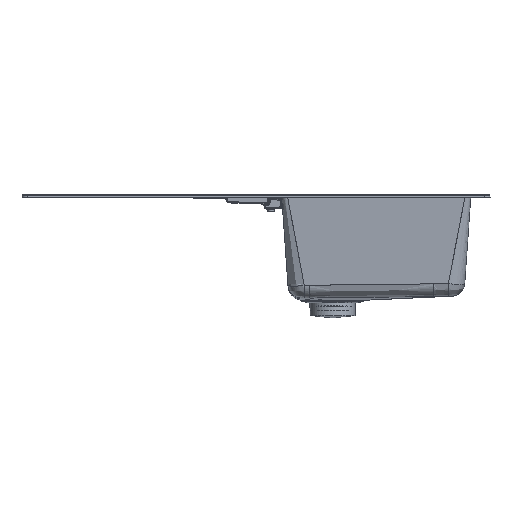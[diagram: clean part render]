
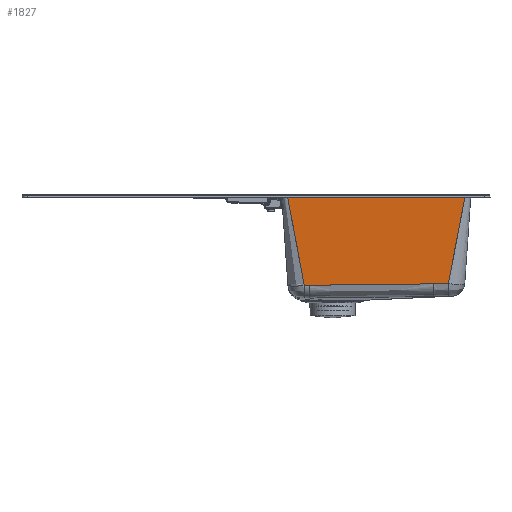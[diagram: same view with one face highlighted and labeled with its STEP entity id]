
A CAD part, front view. The second image highlights one B-rep face of the part: STEP entity #1827.
In plain terms, the highlighted planar face has unit normal (0, -0.998, -0.07).
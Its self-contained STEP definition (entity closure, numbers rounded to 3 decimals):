
#1827=ADVANCED_FACE('',(#2525),#12263,.T.);
#2525=FACE_OUTER_BOUND('',#3222,.T.);
#3222=EDGE_LOOP('',(#5153));
#5153=ORIENTED_EDGE('',*,*,#7235,.T.);
#7235=EDGE_CURVE('',#11186,#11186,#9575,.T.);
#9575=B_SPLINE_CURVE_WITH_KNOTS('',3,(#60644,#60645,#60646,#60647,#60648,
#60649,#60650,#60651,#60652,#60653,#60654,#60655,#60656,#60657,#60658,#60659,
#60660,#60661,#60662,#60663,#60664,#60665,#60666,#60667,#60668,#60669,#60670,
#60671,#60672,#60673,#60674,#60675,#60676,#60677,#60678,#60679,#60680,#60681,
#60682,#60683,#60684,#60685,#60686,#60687,#60688,#60689,#60690,#60691,#60692,
#60693,#60694,#60695),.UNSPECIFIED.,.T.,.F.,(4,1,1,1,1,1,1,1,1,1,1,1,3,
3,3,3,1,1,1,1,1,1,1,1,1,1,1,1,1,1,1,1,1,1,1,3,1,1,1,4),(0.,0.083,
0.167,0.25,0.333,0.417,0.5,0.583,
0.667,0.75,0.833,0.917,1.,2.,3.,4.,4.05,4.1,
4.15,4.2,4.25,4.3,4.35,4.4,4.45,4.5,4.55,4.6,4.65,4.7,4.75,4.8,4.85,4.9,
4.95,5.,5.25,5.5,5.75,6.),.UNSPECIFIED.);
#11186=VERTEX_POINT('',#60643);
#12263=PLANE('',#12757);
#12757=AXIS2_PLACEMENT_3D('',#60642,#12810,$);
#12810=DIRECTION('',(0.,-0.998,-0.07));
#60642=CARTESIAN_POINT('',(71.226,-279.101,1.45));
#60643=CARTESIAN_POINT('',(345.854,-267.478,-164.772));
#60644=CARTESIAN_POINT('',(345.854,-267.478,-164.772));
#60645=CARTESIAN_POINT('',(346.395,-267.478,-164.766));
#60646=CARTESIAN_POINT('',(347.485,-267.479,-164.752));
#60647=CARTESIAN_POINT('',(349.126,-267.481,-164.728));
#60648=CARTESIAN_POINT('',(350.826,-267.483,-164.7));
#60649=CARTESIAN_POINT('',(352.618,-267.485,-164.668));
#60650=CARTESIAN_POINT('',(354.539,-267.488,-164.632));
#60651=CARTESIAN_POINT('',(356.632,-267.491,-164.59));
#60652=CARTESIAN_POINT('',(358.913,-267.494,-164.54));
#60653=CARTESIAN_POINT('',(361.385,-267.498,-164.484));
#60654=CARTESIAN_POINT('',(364.056,-267.503,-164.419));
#60655=CARTESIAN_POINT('',(366.974,-267.508,-164.345));
#60656=CARTESIAN_POINT('',(370.194,-267.514,-164.259));
#60657=CARTESIAN_POINT('',(372.591,-267.519,-164.192));
#60658=CARTESIAN_POINT('',(373.847,-267.521,-164.156));
#60659=CARTESIAN_POINT('',(384.213,-271.304,-110.057));
#60660=CARTESIAN_POINT('',(394.578,-275.087,-55.959));
#60661=CARTESIAN_POINT('',(404.943,-278.87,-1.86));
#60662=CARTESIAN_POINT('',(295.885,-278.87,-1.86));
#60663=CARTESIAN_POINT('',(186.828,-278.87,-1.86));
#60664=CARTESIAN_POINT('',(77.77,-278.87,-1.86));
#60665=CARTESIAN_POINT('',(88.218,-275.012,-57.024));
#60666=CARTESIAN_POINT('',(98.666,-271.155,-112.188));
#60667=CARTESIAN_POINT('',(109.115,-267.298,-167.351));
#60668=CARTESIAN_POINT('',(109.301,-267.297,-167.354));
#60669=CARTESIAN_POINT('',(109.668,-267.297,-167.358));
#60670=CARTESIAN_POINT('',(110.201,-267.297,-167.363));
#60671=CARTESIAN_POINT('',(110.72,-267.297,-167.367));
#60672=CARTESIAN_POINT('',(111.227,-267.296,-167.369));
#60673=CARTESIAN_POINT('',(111.722,-267.296,-167.372));
#60674=CARTESIAN_POINT('',(112.208,-267.296,-167.373));
#60675=CARTESIAN_POINT('',(112.686,-267.296,-167.373));
#60676=CARTESIAN_POINT('',(113.156,-267.296,-167.373));
#60677=CARTESIAN_POINT('',(113.622,-267.296,-167.372));
#60678=CARTESIAN_POINT('',(114.083,-267.296,-167.371));
#60679=CARTESIAN_POINT('',(114.541,-267.296,-167.369));
#60680=CARTESIAN_POINT('',(114.997,-267.297,-167.366));
#60681=CARTESIAN_POINT('',(115.453,-267.297,-167.363));
#60682=CARTESIAN_POINT('',(115.909,-267.297,-167.36));
#60683=CARTESIAN_POINT('',(116.367,-267.297,-167.356));
#60684=CARTESIAN_POINT('',(116.829,-267.298,-167.352));
#60685=CARTESIAN_POINT('',(117.294,-267.298,-167.348));
#60686=CARTESIAN_POINT('',(117.766,-267.298,-167.344));
#60687=CARTESIAN_POINT('',(118.244,-267.299,-167.339));
#60688=CARTESIAN_POINT('',(118.568,-267.299,-167.335));
#60689=CARTESIAN_POINT('',(118.731,-267.299,-167.334));
#60690=CARTESIAN_POINT('',(134.299,-267.31,-167.171));
#60691=CARTESIAN_POINT('',(166.949,-267.335,-166.823));
#60692=CARTESIAN_POINT('',(219.864,-267.375,-166.238));
#60693=CARTESIAN_POINT('',(278.516,-267.422,-165.567));
#60694=CARTESIAN_POINT('',(322.637,-267.459,-165.048));
#60695=CARTESIAN_POINT('',(345.854,-267.478,-164.772));
